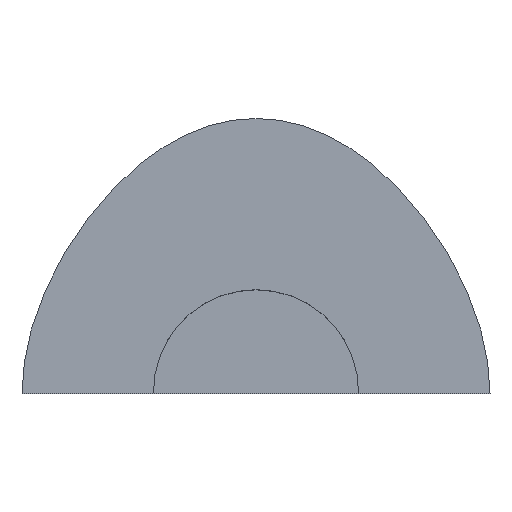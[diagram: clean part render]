
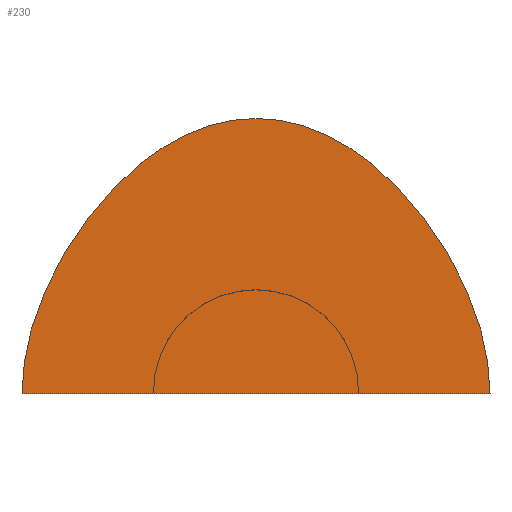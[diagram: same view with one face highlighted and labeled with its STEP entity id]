
A CAD part, top view. The second image highlights one B-rep face of the part: STEP entity #230.
In plain terms, the highlighted planar face has unit normal (0, 0, 1).
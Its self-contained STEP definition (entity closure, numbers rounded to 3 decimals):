
#193=CARTESIAN_POINT('Axis2P3D Location',(0.,54.416,0.)) ;
#198=CARTESIAN_POINT('Line Origine',(0.,0.,0.)) ;
#202=CARTESIAN_POINT('Vertex',(-114.,0.,0.)) ;
#204=CARTESIAN_POINT('Vertex',(114.,0.,0.)) ;
#208=CARTESIAN_POINT('Control Point',(0.,134.,0.)) ;
#209=CARTESIAN_POINT('Control Point',(35.186,134.,0.)) ;
#210=CARTESIAN_POINT('Control Point',(68.085,113.695,0.)) ;
#211=CARTESIAN_POINT('Control Point',(98.695,73.085,0.)) ;
#212=CARTESIAN_POINT('Control Point',(114.,35.186,0.)) ;
#213=CARTESIAN_POINT('Control Point',(114.,0.,0.)) ;
#214=CARTESIAN_POINT('Vertex',(0.,134.,0.)) ;
#218=CARTESIAN_POINT('Control Point',(0.,134.,0.)) ;
#219=CARTESIAN_POINT('Control Point',(-35.186,134.,0.)) ;
#220=CARTESIAN_POINT('Control Point',(-68.085,113.695,0.)) ;
#221=CARTESIAN_POINT('Control Point',(-98.695,73.085,0.)) ;
#222=CARTESIAN_POINT('Control Point',(-114.,35.186,0.)) ;
#223=CARTESIAN_POINT('Control Point',(-114.,0.,0.)) ;
#194=DIRECTION('Axis2P3D Direction',(0.,0.,1.)) ;
#195=DIRECTION('Axis2P3D XDirection',(1.,0.,0.)) ;
#199=DIRECTION('Vector Direction',(1.,0.,0.)) ;
#196=AXIS2_PLACEMENT_3D('Plane Axis2P3D',#193,#194,#195) ;
#226=ORIENTED_EDGE('',*,*,#206,.T.) ;
#227=ORIENTED_EDGE('',*,*,#216,.T.) ;
#228=ORIENTED_EDGE('',*,*,#224,.T.) ;
#200=VECTOR('Line Direction',#199,1.) ;
#230=ADVANCED_FACE('Fill.1',(#229),#197,.T.) ;
#207=B_SPLINE_CURVE_WITH_KNOTS('',5,(#208,#209,#210,#211,#212,#213),.UNSPECIFIED.,.F.,.U.,(6,6),(0.,175.932),.UNSPECIFIED.) ;
#217=B_SPLINE_CURVE_WITH_KNOTS('',5,(#218,#219,#220,#221,#222,#223),.UNSPECIFIED.,.F.,.U.,(6,6),(0.,175.932),.UNSPECIFIED.) ;
#206=EDGE_CURVE('',#203,#205,#201,.T.) ;
#216=EDGE_CURVE('',#205,#215,#207,.F.) ;
#224=EDGE_CURVE('',#215,#203,#217,.T.) ;
#225=EDGE_LOOP('',(#226,#227,#228)) ;
#229=FACE_OUTER_BOUND('',#225,.T.) ;
#201=LINE('Line',#198,#200) ;
#197=PLANE('',#196) ;
#203=VERTEX_POINT('',#202) ;
#205=VERTEX_POINT('',#204) ;
#215=VERTEX_POINT('',#214) ;
